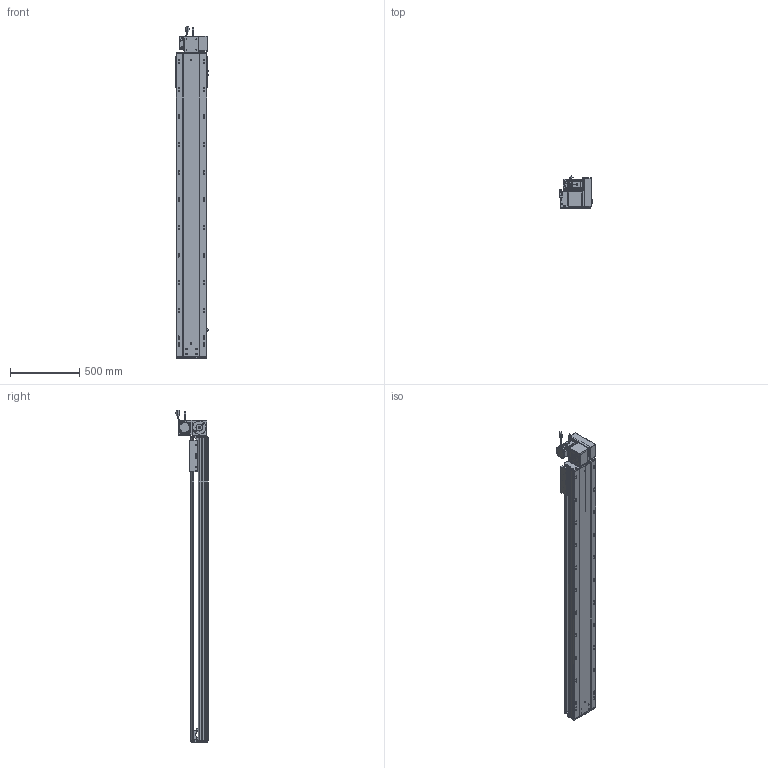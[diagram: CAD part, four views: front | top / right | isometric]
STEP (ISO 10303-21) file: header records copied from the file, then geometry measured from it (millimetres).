
FILE_DESCRIPTION (( 'STEP AP203' ), '1' );
FILE_NAME ('RY220-T-300-UR.SLDASM_1850.step', '2022-07-25T08:44:30', ( '' ), ( '' ), 'SwSTEP 2.0', 'SolidWorks 2016', '' );
FILE_SCHEMA (( 'CONFIG_CONTROL_DESIGN' ));
Length unit declared in the file: millimetre
Products named in the file (14): RY220-同步轮副支撑座6304×2; RY220翋肮祭謫裔啣; 110A-T-肮祭謫釱傷裔; RY220-T菁釱-300_1850; 滅袉蝶18-15; RY220-T-湍謫欶(鍼踢); RY220-俋离672覜茼んえ; RY220翋肮祭謫釱; RY220-T-蛌殏萇儂假蚾啣(750W); RY220-T-300-UR.SLDASM_1850; 怢湛750W_ECMA-CX0807ES; RY220圉猾敕々湍臏賑輸; 覜茼ん672; RY220-T-300-奻裔啣_1850
Assembly tree (18 placements, depth 2):
  RY220-T-300-UR.SLDASM_1850
    RY220-T菁釱-300_1850
    RY220翋肮祭謫釱
    覜茼ん672  x3
    RY220圉猾敕々湍臏賑輸
    RY220-T-300-奻裔啣_1850
    RY220-俋离672覜茼んえ
    滅袉蝶18-15  x3
    RY220翋肮祭謫裔啣  x2
    110A-T-肮祭謫釱傷裔
    怢湛750W_ECMA-CX0807ES
    RY220-T-湍謫欶(鍼踢)
    RY220-T-蛌殏萇儂假蚾啣(750W)
    RY220-同步轮副支撑座6304×2
Bounding box: 238.7 x 231.74 x 2403.27 mm (x, y, z)
Volume: 17757635.7 mm3; surface area: 5374063 mm2
Topology: 19 solids, 19 shells, 2806 faces, 7755 edges, 4890 vertices
Faces by surface type: cylinder 1350, plane 1069, cone 305, bspline 56, sphere 16, torus 10
Entity records: 93539 total; most frequent: CARTESIAN_POINT 26559, ORIENTED_EDGE 13882, DIRECTION 13256, EDGE_CURVE 6941, AXIS2_PLACEMENT_3D 4736, VERTEX_POINT 4514, VECTOR 3784, LINE 3784
